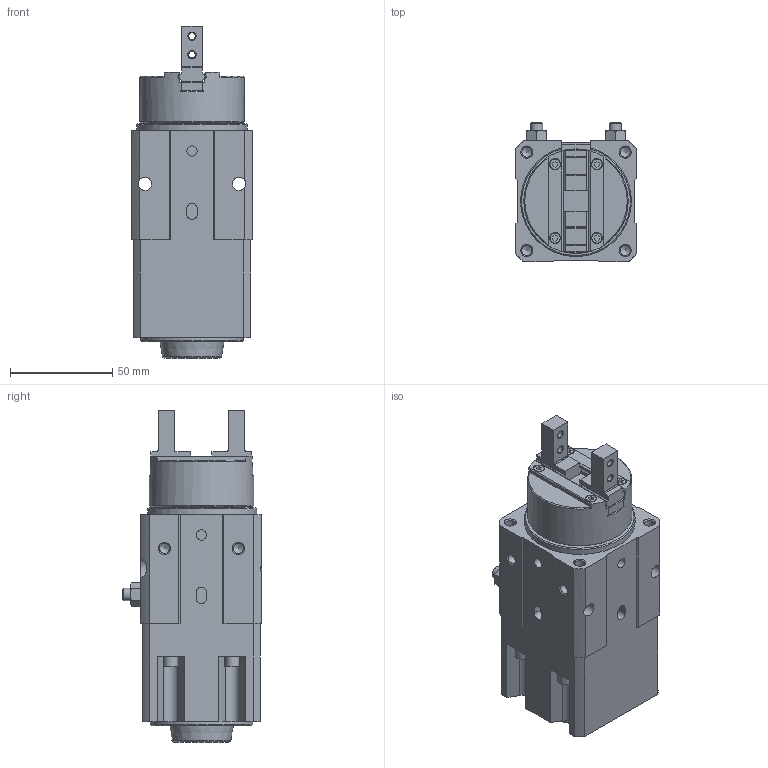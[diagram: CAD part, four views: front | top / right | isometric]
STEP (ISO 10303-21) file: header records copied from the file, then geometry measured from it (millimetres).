
FILE_DESCRIPTION(/* description */ ('STEP AP214'),/* implementation_level */ '2;1');
FILE_NAME(/* name */ 'MRHQ20D-90S-N(26.3_0_0)',/* time_stamp */ '2024-10-07T12:36:14+02:00',/* author */ ('License CC BY-ND 4.0'),/* organization */ ('CADENAS'),/* preprocessor_version */ 'ST-DEVELOPER v19.3',/* originating_system */ 'PARTsolutions',/* authorisation */ ' ');
FILE_SCHEMA (('AUTOMOTIVE_DESIGN {1 0 10303 214 3 1 1}'));
Length unit declared in the file: millimetre
Products named in the file (4): MRHQ20D-90S-N(26.3_0_0); MRHQ20(0)_BODY; MRHQ20(0)_GRIPPER; MRHQ20(0)_FINGER
Assembly tree (4 placements, depth 2):
  MRHQ20D-90S-N(26.3_0_0)
    MRHQ20(0)_BODY
    MRHQ20(0)_GRIPPER
    MRHQ20(0)_FINGER  x2
Bounding box: 59 x 68.2 x 162 mm (x, y, z)
Volume: 384161.9 mm3; surface area: 55019.5 mm2
Topology: 4 solids, 4 shells, 394 faces, 996 edges, 641 vertices
Faces by surface type: plane 240, cylinder 78, cone 75, torus 1
Full cylindrical faces by diameter (mm): 3.242 x4, 4.134 x4, 4.917 x12, 5 x7, 5.5 x4, 6 x2, 6.5 x2, 7 x6, 50 x1, 51 x1
Entity records: 10442 total; most frequent: CARTESIAN_POINT 1968, DIRECTION 1708, ORIENTED_EDGE 1610, EDGE_CURVE 805, AXIS2_PLACEMENT_3D 596, VERTEX_POINT 578, LINE 516, VECTOR 516
